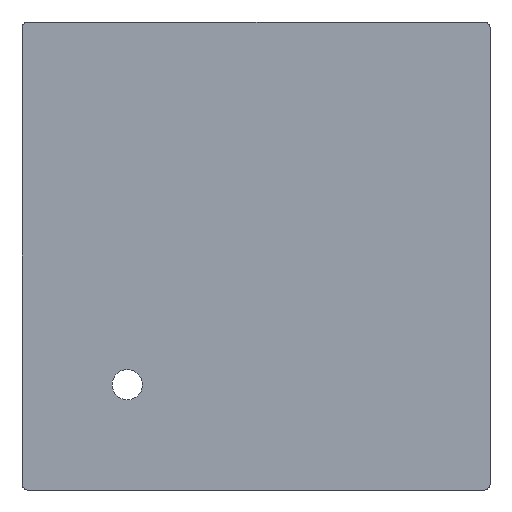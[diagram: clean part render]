
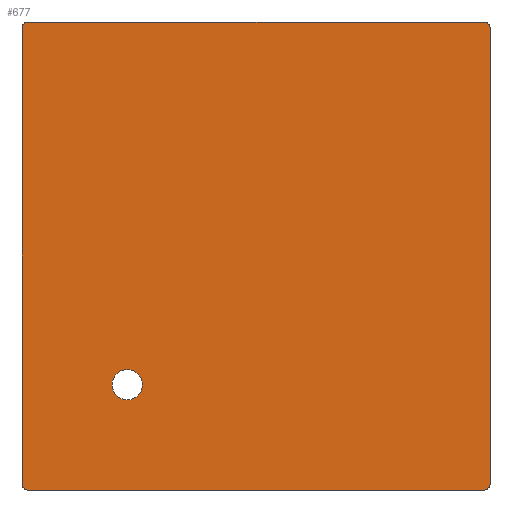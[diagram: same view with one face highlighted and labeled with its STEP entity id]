
A CAD part, front view. The second image highlights one B-rep face of the part: STEP entity #677.
In plain terms, the highlighted planar face has unit normal (0, -1, 0).
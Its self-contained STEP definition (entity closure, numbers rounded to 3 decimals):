
#22=FACE_BOUND('',#244,.T.);
#33=PLANE('',#968);
#93=LINE('',#1496,#139);
#94=LINE('',#1498,#140);
#95=LINE('',#1501,#141);
#96=LINE('',#1503,#142);
#139=VECTOR('',#1227,10.);
#140=VECTOR('',#1230,10.);
#141=VECTOR('',#1235,10.);
#142=VECTOR('',#1238,10.);
#194=FACE_OUTER_BOUND('',#243,.T.);
#243=EDGE_LOOP('',(#612,#613,#614,#615,#616,#617,#618,#619));
#244=EDGE_LOOP('',(#620));
#251=VERTEX_POINT('',#1309);
#292=VERTEX_POINT('',#1446);
#293=VERTEX_POINT('',#1447);
#296=VERTEX_POINT('',#1458);
#297=VERTEX_POINT('',#1459);
#300=VERTEX_POINT('',#1470);
#301=VERTEX_POINT('',#1471);
#304=VERTEX_POINT('',#1484);
#305=VERTEX_POINT('',#1485);
#315=EDGE_CURVE('',#251,#251,#697,.T.);
#382=EDGE_CURVE('',#292,#293,#736,.T.);
#388=EDGE_CURVE('',#296,#297,#740,.T.);
#394=EDGE_CURVE('',#300,#301,#744,.T.);
#401=EDGE_CURVE('',#304,#305,#748,.T.);
#407=EDGE_CURVE('',#292,#301,#93,.T.);
#408=EDGE_CURVE('',#300,#305,#94,.T.);
#409=EDGE_CURVE('',#304,#297,#95,.T.);
#410=EDGE_CURVE('',#296,#293,#96,.T.);
#612=ORIENTED_EDGE('',*,*,#382,.F.);
#613=ORIENTED_EDGE('',*,*,#407,.T.);
#614=ORIENTED_EDGE('',*,*,#394,.F.);
#615=ORIENTED_EDGE('',*,*,#408,.T.);
#616=ORIENTED_EDGE('',*,*,#401,.F.);
#617=ORIENTED_EDGE('',*,*,#409,.T.);
#618=ORIENTED_EDGE('',*,*,#388,.F.);
#619=ORIENTED_EDGE('',*,*,#410,.T.);
#620=ORIENTED_EDGE('',*,*,#315,.T.);
#677=ADVANCED_FACE('',(#194,#22),#33,.F.);
#697=CIRCLE('',#873,26.);
#736=CIRCLE('',#940,10.);
#740=CIRCLE('',#946,10.);
#744=CIRCLE('',#952,10.);
#748=CIRCLE('',#959,10.);
#873=AXIS2_PLACEMENT_3D('',#1311,#1005,#1006);
#940=AXIS2_PLACEMENT_3D('',#1448,#1167,#1168);
#946=AXIS2_PLACEMENT_3D('',#1460,#1181,#1182);
#952=AXIS2_PLACEMENT_3D('',#1472,#1195,#1196);
#959=AXIS2_PLACEMENT_3D('',#1486,#1212,#1213);
#968=AXIS2_PLACEMENT_3D('',#1504,#1239,#1240);
#1005=DIRECTION('center_axis',(0.,1.,0.));
#1006=DIRECTION('ref_axis',(0.,0.,1.));
#1167=DIRECTION('center_axis',(0.,1.,0.));
#1168=DIRECTION('ref_axis',(-0.707,0.,0.707));
#1181=DIRECTION('center_axis',(0.,1.,0.));
#1182=DIRECTION('ref_axis',(0.707,0.,0.707));
#1195=DIRECTION('center_axis',(0.,1.,0.));
#1196=DIRECTION('ref_axis',(-0.707,0.,-0.707));
#1212=DIRECTION('center_axis',(0.,1.,0.));
#1213=DIRECTION('ref_axis',(0.707,0.,-0.707));
#1227=DIRECTION('',(0.,0.,-1.));
#1230=DIRECTION('',(1.,0.,0.));
#1235=DIRECTION('',(0.,0.,1.));
#1238=DIRECTION('',(-1.,0.,0.));
#1239=DIRECTION('center_axis',(0.,1.,0.));
#1240=DIRECTION('ref_axis',(0.,0.,-1.));
#1309=CARTESIAN_POINT('',(-220.,0.,-246.));
#1311=CARTESIAN_POINT('Origin',(-220.,0.,-220.));
#1446=CARTESIAN_POINT('',(-400.,0.,390.));
#1447=CARTESIAN_POINT('',(-390.,0.,400.));
#1448=CARTESIAN_POINT('Origin',(-390.,0.,390.));
#1458=CARTESIAN_POINT('',(390.,0.,400.));
#1459=CARTESIAN_POINT('',(400.,0.,390.));
#1460=CARTESIAN_POINT('Origin',(390.,0.,390.));
#1470=CARTESIAN_POINT('',(-390.,0.,-400.));
#1471=CARTESIAN_POINT('',(-400.,0.,-390.));
#1472=CARTESIAN_POINT('Origin',(-390.,0.,-390.));
#1484=CARTESIAN_POINT('',(400.,0.,-390.));
#1485=CARTESIAN_POINT('',(390.,0.,-400.));
#1486=CARTESIAN_POINT('Origin',(390.,0.,-390.));
#1496=CARTESIAN_POINT('',(-400.,0.,400.));
#1498=CARTESIAN_POINT('',(-400.,0.,-400.));
#1501=CARTESIAN_POINT('',(400.,0.,-400.));
#1503=CARTESIAN_POINT('',(400.,0.,400.));
#1504=CARTESIAN_POINT('Origin',(0.,0.,0.));
